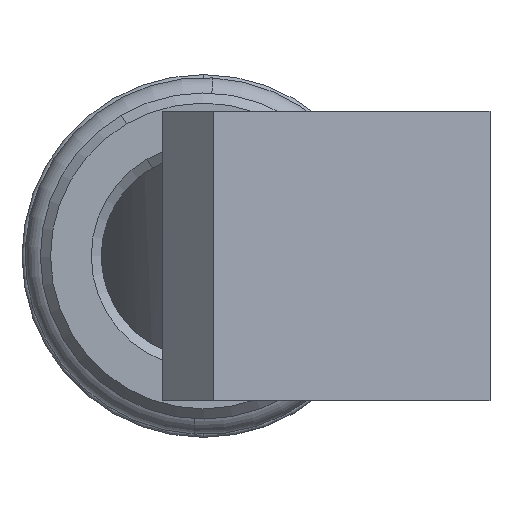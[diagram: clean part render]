
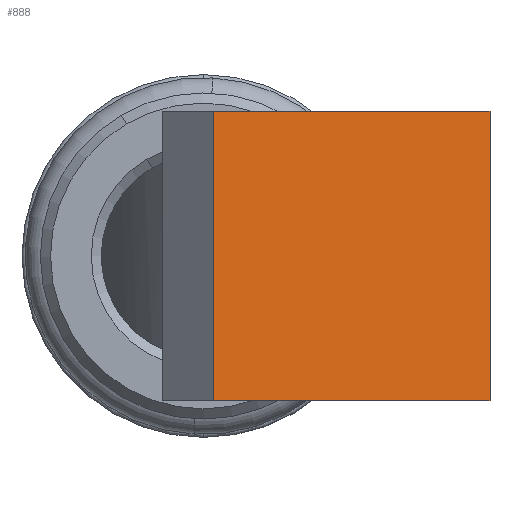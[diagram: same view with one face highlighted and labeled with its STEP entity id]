
A CAD part, left-side view. The second image highlights one B-rep face of the part: STEP entity #888.
In plain terms, the highlighted planar face has unit normal (-0.997, -0.084, 0).
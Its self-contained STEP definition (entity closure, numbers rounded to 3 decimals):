
#68 = DIRECTION ( 'NONE',  ( -0.084, 0.996, 0. ) ) ;
#139 = CARTESIAN_POINT ( 'NONE',  ( -174.496, -0.496, 7.1 ) ) ;
#162 = VECTOR ( 'NONE', #68, 1000. ) ;
#250 = DIRECTION ( 'NONE',  ( 0., 0., 1. ) ) ;
#256 = VECTOR ( 'NONE', #250, 1000. ) ;
#418 = CARTESIAN_POINT ( 'NONE',  ( -173.357, -14.062, 7.1 ) ) ;
#664 = LINE ( 'NONE', #3628, #1384 ) ;
#888 = ADVANCED_FACE ( 'NONE', ( #3661 ), #1318, .T. ) ;
#1067 = EDGE_LOOP ( 'NONE', ( #1743, #3378, #1926, #1161 ) ) ;
#1161 = ORIENTED_EDGE ( 'NONE', *, *, #2158, .F. ) ;
#1318 = PLANE ( 'NONE',  #1719 ) ;
#1384 = VECTOR ( 'NONE', #3648, 1000. ) ;
#1523 = CARTESIAN_POINT ( 'NONE',  ( -158.251, -193.973, 7.1 ) ) ;
#1719 = AXIS2_PLACEMENT_3D ( 'NONE', #2481, #1833, #3024 ) ;
#1743 = ORIENTED_EDGE ( 'NONE', *, *, #3274, .F. ) ;
#1833 = DIRECTION ( 'NONE',  ( -0.996, -0.084, 0. ) ) ;
#1926 = ORIENTED_EDGE ( 'NONE', *, *, #2658, .T. ) ;
#1971 = VERTEX_POINT ( 'NONE', #2979 ) ;
#2158 = EDGE_CURVE ( 'NONE', #1971, #2174, #3580, .T. ) ;
#2174 = VERTEX_POINT ( 'NONE', #139 ) ;
#2325 = VECTOR ( 'NONE', #2990, 1000. ) ;
#2413 = CARTESIAN_POINT ( 'NONE',  ( -174.496, -0.496, -15. ) ) ;
#2466 = LINE ( 'NONE', #1523, #162 ) ;
#2481 = CARTESIAN_POINT ( 'NONE',  ( -158.251, -193.973, -15. ) ) ;
#2537 = CARTESIAN_POINT ( 'NONE',  ( -173.357, -14.062, -7.1 ) ) ;
#2554 = LINE ( 'NONE', #2848, #256 ) ;
#2658 = EDGE_CURVE ( 'NONE', #3220, #2174, #2466, .T. ) ;
#2848 = CARTESIAN_POINT ( 'NONE',  ( -173.357, -14.062, -15. ) ) ;
#2979 = CARTESIAN_POINT ( 'NONE',  ( -174.496, -0.496, -7.1 ) ) ;
#2990 = DIRECTION ( 'NONE',  ( 0., 0., 1. ) ) ;
#2998 = EDGE_CURVE ( 'NONE', #3640, #3220, #2554, .T. ) ;
#3024 = DIRECTION ( 'NONE',  ( 0.084, -0.996, 0. ) ) ;
#3220 = VERTEX_POINT ( 'NONE', #418 ) ;
#3274 = EDGE_CURVE ( 'NONE', #3640, #1971, #664, .T. ) ;
#3378 = ORIENTED_EDGE ( 'NONE', *, *, #2998, .T. ) ;
#3580 = LINE ( 'NONE', #2413, #2325 ) ;
#3628 = CARTESIAN_POINT ( 'NONE',  ( -158.251, -193.973, -7.1 ) ) ;
#3640 = VERTEX_POINT ( 'NONE', #2537 ) ;
#3648 = DIRECTION ( 'NONE',  ( -0.084, 0.996, 0. ) ) ;
#3661 = FACE_OUTER_BOUND ( 'NONE', #1067, .T. ) ;
